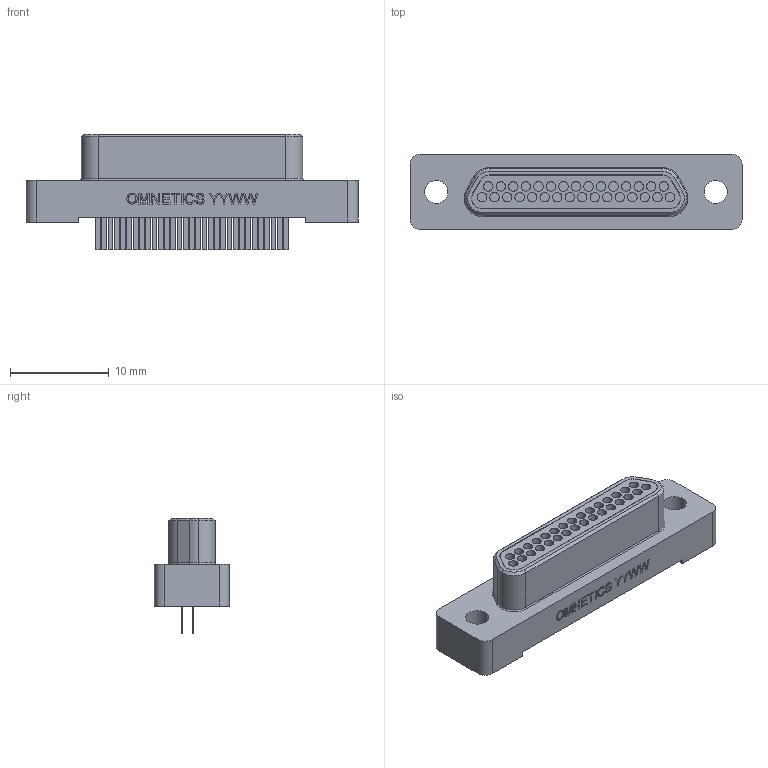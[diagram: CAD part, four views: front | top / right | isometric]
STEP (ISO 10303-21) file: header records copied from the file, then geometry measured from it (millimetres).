
FILE_DESCRIPTION (( 'STEP AP214' ), '1' );
FILE_NAME ('A98022-031 REV B.STEP', '2021-02-04T18:35:26', ( '' ), ( '' ), 'SwSTEP 2.0', 'SolidWorks 2019', '' );
FILE_SCHEMA (( 'AUTOMOTIVE_DESIGN' ));
Length unit declared in the file: inch
Products named in the file (1): A98022-031 REV B
Bounding box: 33.66 x 7.63 x 11.68 mm (x, y, z)
Volume: 1180.2 mm3; surface area: 2664.2 mm2
Topology: 1 solids, 2 shells, 715 faces, 1764 edges, 1128 vertices
Faces by surface type: plane 348, cylinder 241, cone 67, bspline 54, torus 5
Entity records: 33070 total; most frequent: CARTESIAN_POINT 6652, ORIENTED_EDGE 3516, DIRECTION 3459, EDGE_CURVE 1758, AXIS2_PLACEMENT_3D 1155, VECTOR 1149, LINE 1149, VERTEX_POINT 1128
